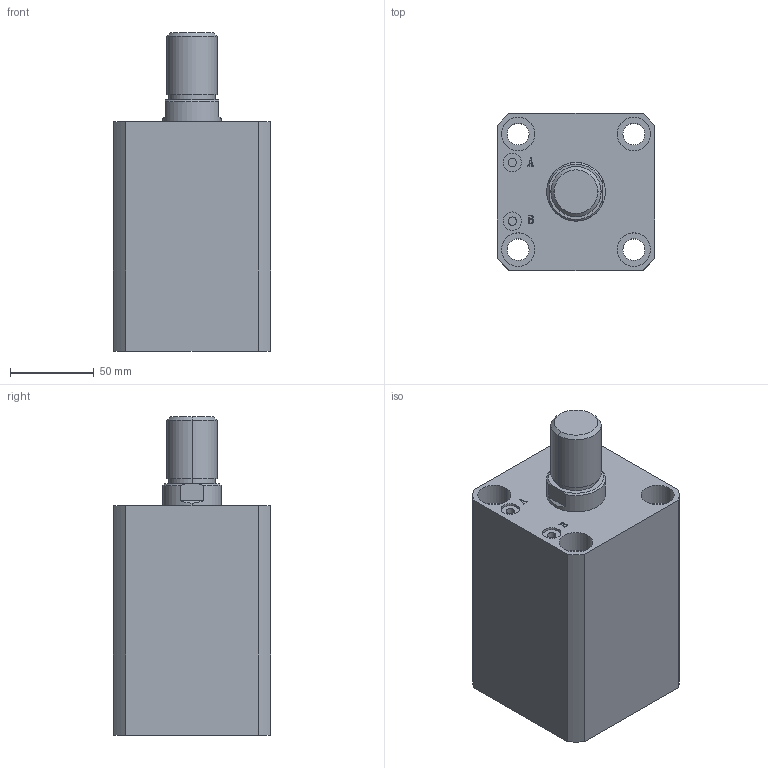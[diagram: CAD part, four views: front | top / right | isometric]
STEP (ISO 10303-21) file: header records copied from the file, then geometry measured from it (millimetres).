
FILE_DESCRIPTION (( 'STEP AP203' ), '1' );
FILE_NAME ('HTB-SDMA63-70W.STEP', '2019-10-08T01:11:45', ( '微软用户' ), ( '微软中国' ), 'SwSTEP 2.0', 'SolidWorks 2012', '' );
FILE_SCHEMA (( 'CONFIG_CONTROL_DESIGN' ));
Length unit declared in the file: millimetre
Products named in the file (3): HTB-SDMA63-70W; HTB-SDMA63-70W活塞杆; HTB-SDMA63-70掛极
Assembly tree (2 placements, depth 2):
  HTB-SDMA63-70W
    HTB-SDMA63-70掛极
    HTB-SDMA63-70W活塞杆
Bounding box: 94 x 94 x 190 mm (x, y, z)
Volume: 993015.5 mm3; surface area: 142450.3 mm2
Topology: 2 solids, 2 shells, 141 faces, 337 edges, 222 vertices
Faces by surface type: plane 67, cylinder 48, bspline 16, torus 6, cone 4
Entity records: 5176 total; most frequent: CARTESIAN_POINT 1593, ORIENTED_EDGE 674, DIRECTION 669, EDGE_CURVE 337, AXIS2_PLACEMENT_3D 242, VERTEX_POINT 222, VECTOR 185, LINE 185
